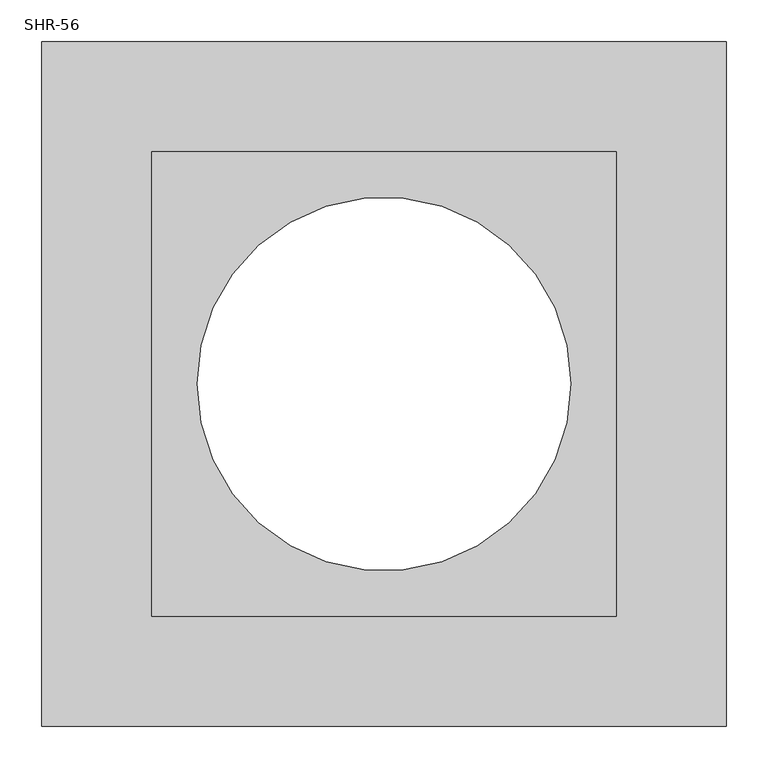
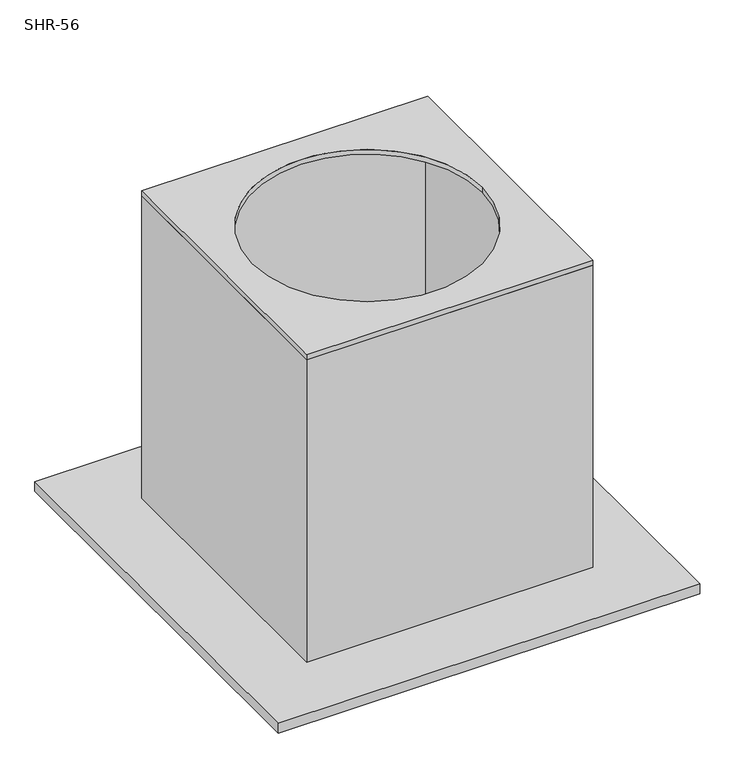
"""IFC4 building model written with IfcOpenShell, lengths in millimetres: damper geometry, СВ_Шумоглушитель_КрышныйПрямоугольный_30-100_SHR : SHR-56."""

from ifc_helpers import new_model, si_unit, point, frame, origin, origin_2d, place, context, project, spatial, polyline, circle_curve, trimmed, segment, composite_curve, outline, extrude, faceted_brep, source, transform, mapped, element, save


def shr_56_5cfe1be8(model_context):
    return source(origin(), model_context, "Body", "SolidModel", [
        extrude(outline(polyline([(280.0, 280.0), (280.0, -280.0), (-280.0, -280.0), (-280.0, 280.0), (280.0, 280.0)]), holes=[composite_curve([segment(trimmed(circle_curve(origin_2d(), 225.0), [point((-225.0, 0.0))], [point((225.0, 0.0))], True, "CARTESIAN"), True, "CONTINUOUS"), segment(trimmed(circle_curve(origin_2d(), 225.0), [point((225.0, 0.0))], [point((-225.0, 0.0))], True, "CARTESIAN"), True, "CONTINUOUS")], self_intersect=False)]), frame((0.0, 0.0, -10.0), z_axis=(0.0, 0.0, 1.0), x_axis=(1.0, 0.0, 0.0)), (0.0, 0.0, 1.0), 10.0),
        faceted_brep([(-412.5, -412.5, -636.0), (412.5, -412.5, -636.0), (412.5, 412.5, -636.0), (-412.5, 412.5, -636.0), (-280.0, 280.0, -636.0), (280.0, 280.0, -636.0), (280.0, -280.0, -636.0), (-280.0, -280.0, -636.0), (-412.5, -412.5, -656.0), (-412.5, 412.5, -656.0), (412.5, 412.5, -656.0), (412.5, -412.5, -656.0), (-270.0, -270.0, -656.0), (270.0, -270.0, -656.0), (270.0, 270.0, -656.0), (-270.0, 270.0, -656.0), (280.0, 280.0, -10.0), (-280.0, 280.0, -10.0), (-280.0, -280.0, -10.0), (280.0, -280.0, -10.0), (-270.0, -270.0, -10.0), (-270.0, 270.0, -10.0), (270.0, 270.0, -10.0), (270.0, -270.0, -10.0)], [[[0, 1, 2, 3], [4, 5, 6, 7]], [[8, 9, 10, 11], [12, 13, 14, 15]], [[1, 0, 8, 11]], [[2, 1, 11, 10]], [[3, 2, 10, 9]], [[0, 3, 9, 8]], [[16, 17, 18, 19], [20, 21, 22, 23]], [[20, 23, 13, 12]], [[23, 22, 14, 13]], [[22, 21, 15, 14]], [[21, 20, 12, 15]], [[17, 16, 5, 4]], [[18, 17, 4, 7]], [[19, 18, 7, 6]], [[16, 19, 6, 5]]]),
    ])


if __name__ == "__main__":
    model = new_model("IFC4")
    model_context = context("Model", 3, world=origin())
    ifc_project = project(units=[si_unit("LENGTHUNIT", "METRE", prefix="MILLI")], contexts=[model_context])
    site = spatial("IfcSite", under=ifc_project)
    building = spatial("IfcBuilding", under=site)
    placement = place(None, origin())
    shr_56_shape = shr_56_5cfe1be8(model_context)
    element("IfcDamper", 1, ObjectType="СВ_Шумоглушитель_КрышныйПрямоугольный_30-100_SHR : SHR-56", at=placement, inside=building, context=model_context, shape_type="MappedRepresentation", body=[
        mapped(shr_56_shape, transform((0.0, 0.0, 0.0), x_axis=(1.0, 0.0, 0.0), y_axis=(0.0, 1.0, 0.0), z_axis=(0.0, 0.0, 1.0))),
    ])
    save(model, "model.ifc")
